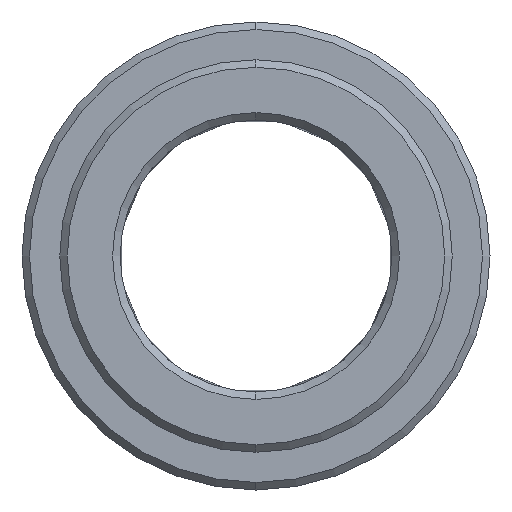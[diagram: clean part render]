
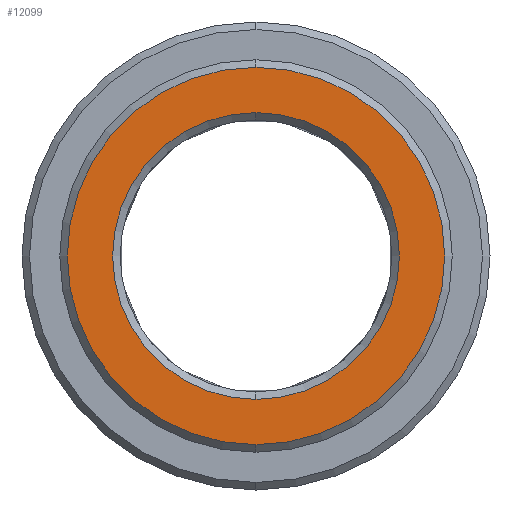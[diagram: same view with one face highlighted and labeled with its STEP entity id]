
A CAD part, left-side view. The second image highlights one B-rep face of the part: STEP entity #12099.
In plain terms, the highlighted planar face has unit normal (-1, 0, 0).
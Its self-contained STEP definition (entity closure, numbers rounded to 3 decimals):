
#4734=CARTESIAN_POINT('',(-8.,0.,0.));
#4735=DIRECTION('',(1.,0.,0.));
#4736=DIRECTION('',(0.,0.,1.));
#4737=AXIS2_PLACEMENT_3D('',#4734,#4735,#4736);
#4739=CARTESIAN_POINT('',(-8.,0.,0.));
#4740=DIRECTION('',(1.,0.,0.));
#4741=DIRECTION('',(0.,0.,-1.));
#4742=AXIS2_PLACEMENT_3D('',#4739,#4740,#4741);
#4744=CARTESIAN_POINT('',(-8.,0.,
0.));
#4745=DIRECTION('',(1.,0.,0.));
#4746=DIRECTION('',(0.,0.,1.));
#4747=AXIS2_PLACEMENT_3D('',#4744,#4745,#4746);
#4749=CARTESIAN_POINT('',(-8.,0.,0.));
#4750=DIRECTION('',(1.,0.,0.));
#4751=DIRECTION('',(0.,0.,-1.));
#4752=AXIS2_PLACEMENT_3D('',#4749,#4750,#4751);
#10146=CARTESIAN_POINT('',(-8.,0.,12.5));
#10147=CARTESIAN_POINT('',(-8.,0.,-12.5));
#10148=VERTEX_POINT('',#10146);
#10149=VERTEX_POINT('',#10147);
#10150=CARTESIAN_POINT('',(-8.,0.,9.5));
#10151=CARTESIAN_POINT('',(-8.,0.,-9.5));
#10152=VERTEX_POINT('',#10150);
#10153=VERTEX_POINT('',#10151);
#12083=CARTESIAN_POINT('',(-8.,0.,0.));
#12084=DIRECTION('',(1.,0.,0.));
#12085=DIRECTION('',(0.,0.,1.));
#12086=AXIS2_PLACEMENT_3D('',#12083,#12084,#12085);
#12087=PLANE('',#12086);
#12089=ORIENTED_EDGE('',*,*,#12088,.T.);
#12091=ORIENTED_EDGE('',*,*,#12090,.T.);
#12092=EDGE_LOOP('',(#12089,#12091));
#12093=FACE_OUTER_BOUND('',#12092,.F.);
#12095=ORIENTED_EDGE('',*,*,#12094,.F.);
#12096=ORIENTED_EDGE('',*,*,#12073,.F.);
#12097=EDGE_LOOP('',(#12095,#12096));
#12098=FACE_BOUND('',#12097,.F.);
#12099=ADVANCED_FACE('',(#12093,#12098),#12087,.F.);
#4738=CIRCLE('',#4737,12.5);
#4743=CIRCLE('',#4742,12.5);
#4748=CIRCLE('',#4747,9.5);
#4753=CIRCLE('',#4752,9.5);
#12073=EDGE_CURVE('',#10153,#10152,#4753,.T.);
#12088=EDGE_CURVE('',#10148,#10149,#4738,.T.);
#12090=EDGE_CURVE('',#10149,#10148,#4743,.T.);
#12094=EDGE_CURVE('',#10152,#10153,#4748,.T.);
